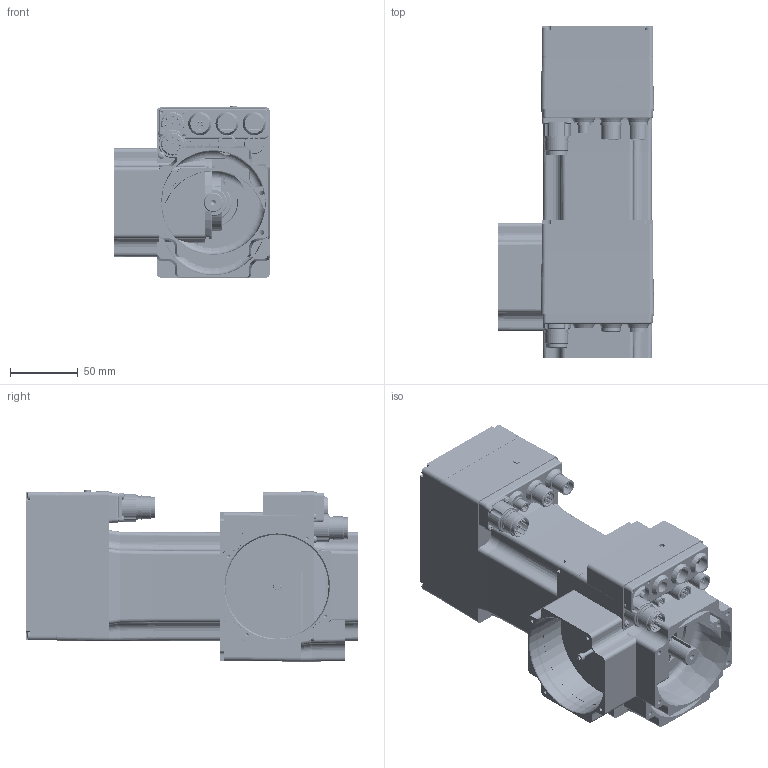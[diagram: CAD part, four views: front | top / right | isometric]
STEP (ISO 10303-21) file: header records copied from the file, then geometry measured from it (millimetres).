
FILE_DESCRIPTION( ( 'Unknown' ), '1' );
FILE_NAME( 'C:/Users/dotti/Desktop/Q0B214/Q0B214_1,5.stp', 'Unknown', ( 'Unknown' ), ( 'Unknown' ), 'PSStep 14.0', 'Unknown', ' ' );
FILE_SCHEMA( ( 'AUTOMOTIVE_DESIGN { 1 0 10303 214 1 1 1 1 }' ) );
Length unit declared in the file: millimetre
Products named in the file (45): Assem1; T00273; 005117000974; N54236; CN M23 PAN-POT BEGA 906 4+5p; VECST-8112 M  2,5 x 12; 005117000476; G00030; LI-PIA   5x5 x 25; CUSC_20_42_12_6004_ZZ; CUSC_15_32_9_6002_ZZ; Anello-elastico-chiuso  42; a-ela  20; N09281; 003251021084; anello-elastico-chiuso  32; Vite a brugola testa cil 8,8 -  M  3 x 25; Vite a brugola testa cil 8,8 -  M  3 x 25-oa0; Vite a brugola testa cil 8,8 -  M  3 x 25-oa1; Vite a brugola testa cil 8,8 -  M  3 x 25-oa2; Vite a brugola testa cil 8,8 -  M  3 x 40; Vite a brugola testa cil 8,8 -  M  3 x 40-oa3; Vite a brugola testa cil 8,8 -  M  3 x 40-oa4; Vite a brugola testa cil 8,8 -  M  3 x 40-oa5; N35217; VECST-8112 M  3 x 30; 003016000054; N01382; N54239
Bounding box: 114.5 x 244.13 x 126.21 mm (x, y, z)
Volume: 1065830 mm3; surface area: 546857.2 mm2
Topology: 102 solids, 106 shells, 7375 faces, 20031 edges, 13137 vertices
Faces by surface type: plane 4041, cylinder 2513, bspline 283, cone 276, torus 209, sphere 53
Full cylindrical faces by diameter (mm): 1 x39, 1.5 x42, 1.7 x30, 2 x4, 2.4 x24, 2.459 x42, 2.5 x17, 2.7 x12, 3 x21, 3.5 x34, 4 x5, 4.2 x4, 5 x11, 5.5 x16, 6 x28, 8 x17, 8.5 x9, 8.75 x3, 9 x6, 10 x3, 11 x15, 11.9 x6, 12 x9, 14 x8, 14.4 x3, 14.5 x3, 15 x4, 15.6 x3, 16 x3, 16.5 x3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
Entity records: 103984 total; most frequent: CARTESIAN_POINT 27195, ORIENTED_EDGE 13332, DIRECTION 13207, EDGE_CURVE 6666, AXIS2_PLACEMENT_3D 4746, VERTEX_POINT 4557, LINE 3715, VECTOR 3715
